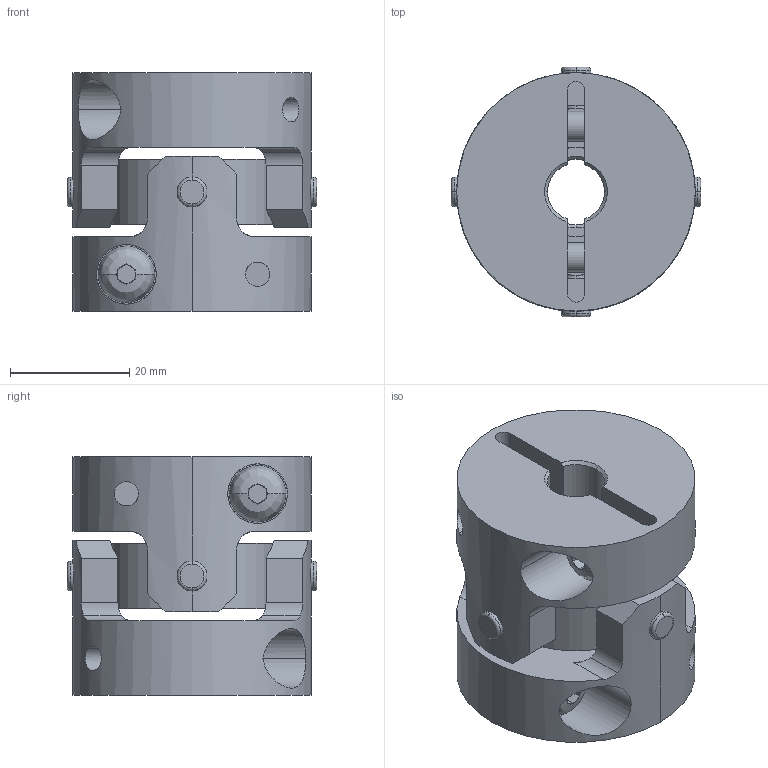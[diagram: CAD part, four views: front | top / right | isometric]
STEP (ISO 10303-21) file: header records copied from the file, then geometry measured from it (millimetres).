
FILE_DESCRIPTION((''),'2;1');
FILE_NAME('UA-40C-9.525×11.stp','2013-11-19T08:36:20',(''),(''),'AutoCAD STEP 2000i','AutoCAD 2000i',', , ');
FILE_SCHEMA(('CONFIG_CONTROL_DESIGN'));
Length unit declared in the file: millimetre
Products named in the file (6): UA-40C-8×8; 忣兜1; UA-4002-D08-1; BTN-M5; UA-4002-D08; UA40-SEN
Assembly tree (6 placements, depth 3):
  UA-40C-8×8
    忣兜1
    UA-4002-D08-1
      BTN-M5
    UA-4002-D08
      BTN-M5
    UA40-SEN
Bounding box: 41.81 x 41.81 x 40 mm (x, y, z)
Volume: 34566 mm3; surface area: 15644.1 mm2
Topology: 1 solids, 1 shells, 250 faces, 646 edges, 408 vertices
Faces by surface type: plane 122, cylinder 96, cone 16, bspline 8, torus 8
Entity records: 9627 total; most frequent: CARTESIAN_POINT 3371, ORIENTED_EDGE 1292, DIRECTION 1288, EDGE_CURVE 646, AXIS2_PLACEMENT_3D 497, VERTEX_POINT 408, VECTOR 294, LINE 294
